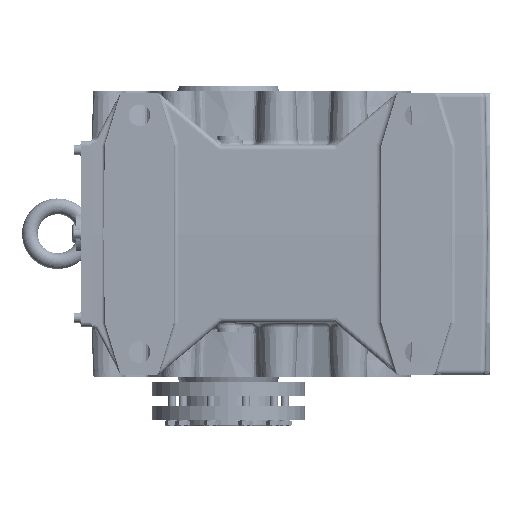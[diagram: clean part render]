
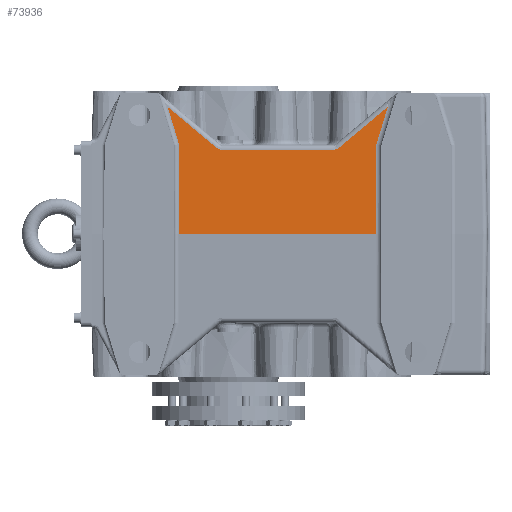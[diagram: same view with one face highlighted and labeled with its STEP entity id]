
A CAD part, left-side view. The second image highlights one B-rep face of the part: STEP entity #73936.
In plain terms, the highlighted planar face has unit normal (-1, 0, 0.018).
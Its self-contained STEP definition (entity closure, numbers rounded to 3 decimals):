
#33803=CARTESIAN_POINT('',(-156.571,-150.0,0.0));
#33804=VERTEX_POINT('',#33803);
#33854=CARTESIAN_POINT('',(-154.989,-150.0,90.651));
#33855=VERTEX_POINT('',#33854);
#33863=CARTESIAN_POINT('',(-154.989,-150.0,90.651));
#33864=DIRECTION('',(-0.017,0.0,-1.));
#33865=VECTOR('',#33864,90.665);
#33866=LINE('',#33863,#33865);
#33867=EDGE_CURVE('',#33855,#33804,#33866,.T.);
#34243=CARTESIAN_POINT('',(-156.571,50.,0.0));
#34244=VERTEX_POINT('',#34243);
#34252=CARTESIAN_POINT('',(-154.989,50.,90.651));
#34253=VERTEX_POINT('',#34252);
#34254=CARTESIAN_POINT('',(-156.571,50.,0.));
#34255=DIRECTION('',(0.017,0.0,1.));
#34256=VECTOR('',#34255,90.665);
#34257=LINE('',#34254,#34256);
#34258=EDGE_CURVE('',#34244,#34253,#34257,.T.);
#64623=CARTESIAN_POINT('',(-155.086,6.017,85.087));
#64624=VERTEX_POINT('',#64623);
#64632=CARTESIAN_POINT('',(-155.086,-106.017,85.087));
#64633=VERTEX_POINT('',#64632);
#64634=CARTESIAN_POINT('',(-155.086,6.017,85.087));
#64635=DIRECTION('',(0.0,-1.0,0.0));
#64636=VECTOR('',#64635,112.034);
#64637=LINE('',#64634,#64636);
#64638=EDGE_CURVE('',#64624,#64633,#64637,.T.);
#64673=CARTESIAN_POINT('',(-155.045,12.445,87.427));
#64674=VERTEX_POINT('',#64673);
#64682=CARTESIAN_POINT('',(-154.911,6.017,95.087));
#64683=DIRECTION('',(-1.,0.,0.017));
#64684=DIRECTION('',(-0.017,0.,-1.));
#64685=AXIS2_PLACEMENT_3D('',#64682,#64683,#64684);
#64686=ELLIPSE('',#64685,10.002,10.);
#64687=EDGE_CURVE('',#64674,#64624,#64686,.T.);
#64707=CARTESIAN_POINT('',(-154.327,61.437,128.536));
#64708=VERTEX_POINT('',#64707);
#64716=CARTESIAN_POINT('',(-154.327,61.437,128.536));
#64717=DIRECTION('',(-0.011,-0.766,-0.643));
#64718=VECTOR('',#64717,63.958);
#64719=LINE('',#64716,#64718);
#64720=EDGE_CURVE('',#64708,#64674,#64719,.T.);
#73627=CARTESIAN_POINT('',(-156.571,-150.0,0.0));
#73628=DIRECTION('',(0.0,1.0,0.0));
#73629=VECTOR('',#73628,200.);
#73630=LINE('',#73627,#73629);
#73631=EDGE_CURVE('',#34244,#33804,#73630,.F.);
#73676=CARTESIAN_POINT('',(-155.045,-112.445,87.427));
#73677=VERTEX_POINT('',#73676);
#73695=CARTESIAN_POINT('',(-154.911,-106.017,95.087));
#73696=DIRECTION('',(-1.,0.,0.017));
#73697=DIRECTION('',(-0.017,0.,-1.));
#73698=AXIS2_PLACEMENT_3D('',#73695,#73696,#73697);
#73699=ELLIPSE('',#73698,10.002,10.0);
#73700=EDGE_CURVE('',#64633,#73677,#73699,.T.);
#73710=CARTESIAN_POINT('',(-154.327,-161.437,128.536));
#73711=VERTEX_POINT('',#73710);
#73728=CARTESIAN_POINT('',(-155.045,-112.445,87.427));
#73729=DIRECTION('',(0.011,-0.766,0.643));
#73730=VECTOR('',#73729,63.958);
#73731=LINE('',#73728,#73730);
#73732=EDGE_CURVE('',#73677,#73711,#73731,.T.);
#73903=CARTESIAN_POINT('',(-154.327,-161.437,128.536));
#73904=DIRECTION('',(-0.017,0.289,-0.957));
#73905=VECTOR('',#73904,39.579);
#73906=LINE('',#73903,#73905);
#73907=EDGE_CURVE('',#73711,#33855,#73906,.T.);
#73914=CARTESIAN_POINT('',(-156.571,-260.0,0.014));
#73915=DIRECTION('',(-1.,0.,0.017));
#73916=DIRECTION('',(0.017,0.,1.));
#73917=AXIS2_PLACEMENT_3D('',#73914,#73915,#73916);
#73918=PLANE('',#73917);
#73919=ORIENTED_EDGE('',*,*,#73732,.F.);
#73920=ORIENTED_EDGE('',*,*,#73700,.F.);
#73921=ORIENTED_EDGE('',*,*,#64638,.F.);
#73922=ORIENTED_EDGE('',*,*,#64687,.F.);
#73923=ORIENTED_EDGE('',*,*,#64720,.F.);
#73924=CARTESIAN_POINT('',(-154.989,50.,90.651));
#73925=DIRECTION('',(0.017,0.289,0.957));
#73926=VECTOR('',#73925,39.579);
#73927=LINE('',#73924,#73926);
#73928=EDGE_CURVE('',#34253,#64708,#73927,.T.);
#73929=ORIENTED_EDGE('',*,*,#73928,.F.);
#73930=ORIENTED_EDGE('',*,*,#34258,.F.);
#73931=ORIENTED_EDGE('',*,*,#73631,.T.);
#73932=ORIENTED_EDGE('',*,*,#33867,.F.);
#73933=ORIENTED_EDGE('',*,*,#73907,.F.);
#73934=EDGE_LOOP('',(#73919,#73920,#73921,#73922,#73923,#73929,#73930,#73931,#73932,#73933));
#73935=FACE_OUTER_BOUND('',#73934,.T.);
#73936=ADVANCED_FACE('',(#73935),#73918,.T.);
